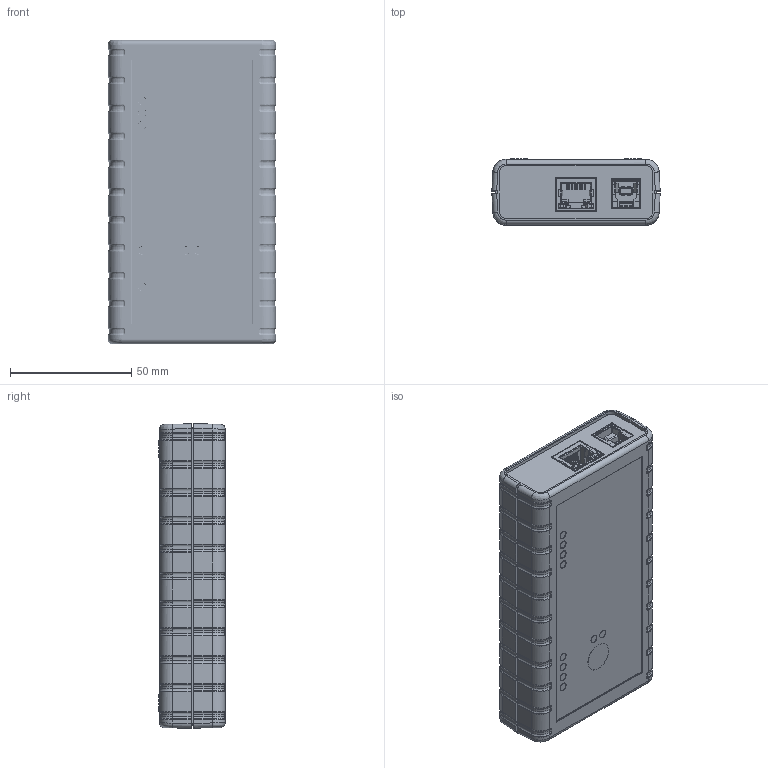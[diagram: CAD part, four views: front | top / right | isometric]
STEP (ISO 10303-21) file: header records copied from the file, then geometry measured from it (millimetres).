
FILE_DESCRIPTION (( 'STEP AP214' ), '1' );
FILE_NAME ('J_TracePro_V4_Assembly_WEB.STEP', '2026-02-19T08:50:20', ( '' ), ( '' ), 'SwSTEP 2.0', 'SolidWorks 2020', '' );
FILE_SCHEMA (( 'AUTOMOTIVE_DESIGN' ));
Length unit declared in the file: millimetre
Products named in the file (1): J_TracePro_V4_Assembly_WEB
Bounding box: 69.36 x 27.3 x 125.5 mm (x, y, z)
Volume: 134125.8 mm3; surface area: 85390.5 mm2
Topology: 763 solids, 769 shells, 11825 faces, 28320 edges, 18126 vertices
Faces by surface type: plane 8495, cylinder 2460, bspline 606, sphere 152, torus 62, cone 50
Entity records: 508755 total; most frequent: CARTESIAN_POINT 102207, ORIENTED_EDGE 56614, DIRECTION 51186, EDGE_CURVE 28307, VECTOR 21220, LINE 21220, VERTEX_POINT 18126, AXIS2_PLACEMENT_3D 14983
